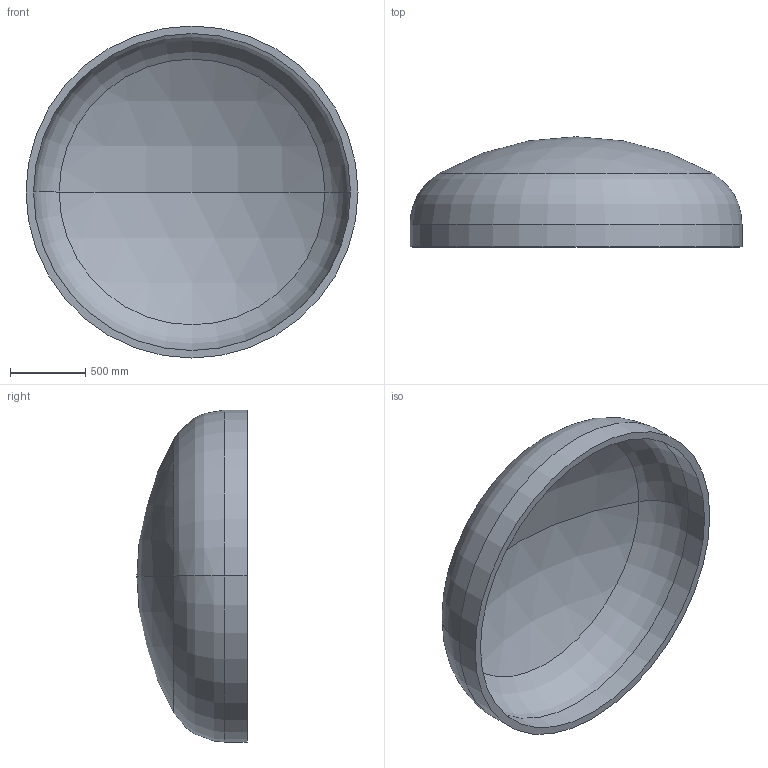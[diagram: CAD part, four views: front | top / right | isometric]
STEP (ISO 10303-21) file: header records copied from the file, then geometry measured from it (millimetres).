
FILE_DESCRIPTION (( 'STEP AP203' ), '1' );
FILE_NAME ('DIN 28013 Korbbogenform_-_Boden DIN 28013 - 2200 x 150 - I - s=50.step', '2016-07-01T14:40:46', ( '' ), ( '' ), 'SwSTEP 2.0', 'SolidWorks 2013', '' );
FILE_SCHEMA (( 'CONFIG_CONTROL_DESIGN' ));
Length unit declared in the file: millimetre
Products named in the file (1): DIN 28013 Korbbogenform_-_Boden DIN 28013 - 2200 x 150 - I - s=50
Bounding box: 2200 x 730.24 x 2200 mm (x, y, z)
Volume: 306333129.2 mm3; surface area: 12596278.6 mm2
Topology: 1 solids, 1 shells, 13 faces, 24 edges, 14 vertices
Faces by surface type: torus 4, cylinder 4, sphere 4, plane 1
Entity records: 407 total; most frequent: DIRECTION 72, CARTESIAN_POINT 52, ORIENTED_EDGE 48, AXIS2_PLACEMENT_3D 34, EDGE_CURVE 24, CIRCLE 20, EDGE_LOOP 14, VERTEX_POINT 14
